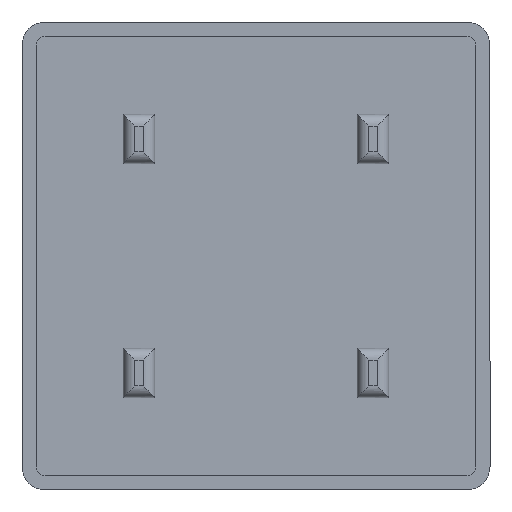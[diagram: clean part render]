
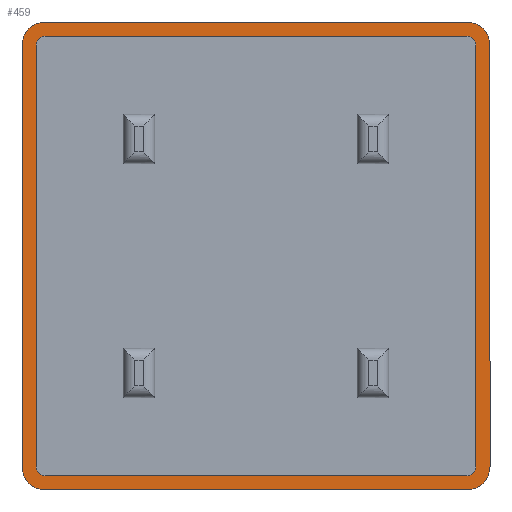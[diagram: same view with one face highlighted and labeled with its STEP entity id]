
A CAD part, front view. The second image highlights one B-rep face of the part: STEP entity #459.
In plain terms, the highlighted planar face has unit normal (0, -1, 0).
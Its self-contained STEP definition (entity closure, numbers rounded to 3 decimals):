
#26 = VECTOR ( 'NONE', #1459, 1000. ) ;
#47 = AXIS2_PLACEMENT_3D ( 'NONE', #1018, #171, #1162 ) ;
#72 = EDGE_CURVE ( 'NONE', #1550, #1064, #838, .T. ) ;
#80 = DIRECTION ( 'NONE',  ( 0., 0., 1. ) ) ;
#88 = CIRCLE ( 'NONE', #584, 2. ) ;
#98 = EDGE_CURVE ( 'NONE', #1606, #997, #88, .T. ) ;
#102 = EDGE_CURVE ( 'NONE', #602, #1389, #1211, .T. ) ;
#111 = CARTESIAN_POINT ( 'NONE',  ( 18., -1.5, -18. ) ) ;
#129 = AXIS2_PLACEMENT_3D ( 'NONE', #1746, #925, #80 ) ;
#157 = VERTEX_POINT ( 'NONE', #929 ) ;
#160 = CARTESIAN_POINT ( 'NONE',  ( -18., -1.5, -20. ) ) ;
#171 = DIRECTION ( 'NONE',  ( 0., -1., 0. ) ) ;
#189 = VERTEX_POINT ( 'NONE', #245 ) ;
#199 = CARTESIAN_POINT ( 'NONE',  ( -18.8, -1.5, -18. ) ) ;
#200 = CARTESIAN_POINT ( 'NONE',  ( 18., -1.5, 18.8 ) ) ;
#205 = DIRECTION ( 'NONE',  ( 0., -1., 0. ) ) ;
#206 = ORIENTED_EDGE ( 'NONE', *, *, #311, .F. ) ;
#207 = EDGE_LOOP ( 'NONE', ( #1673, #740, #1390, #1130, #1172, #1376, #682, #206 ) ) ;
#208 = VECTOR ( 'NONE', #339, 1000. ) ;
#220 = AXIS2_PLACEMENT_3D ( 'NONE', #474, #354, #1335 ) ;
#245 = CARTESIAN_POINT ( 'NONE',  ( 18.8, -1.5, -18. ) ) ;
#253 = DIRECTION ( 'NONE',  ( 0., 0., -1. ) ) ;
#265 = AXIS2_PLACEMENT_3D ( 'NONE', #313, #1296, #445 ) ;
#278 = ORIENTED_EDGE ( 'NONE', *, *, #72, .F. ) ;
#293 = ORIENTED_EDGE ( 'NONE', *, *, #846, .F. ) ;
#301 = DIRECTION ( 'NONE',  ( 0., 1., 0. ) ) ;
#311 = EDGE_CURVE ( 'NONE', #849, #1305, #343, .T. ) ;
#313 = CARTESIAN_POINT ( 'NONE',  ( -18., -1.5, -18. ) ) ;
#336 = VERTEX_POINT ( 'NONE', #1022 ) ;
#339 = DIRECTION ( 'NONE',  ( -1., 0., 0. ) ) ;
#340 = EDGE_CURVE ( 'NONE', #189, #1092, #1455, .T. ) ;
#343 = CIRCLE ( 'NONE', #265, 0.8 ) ;
#354 = DIRECTION ( 'NONE',  ( 0., 1., 0. ) ) ;
#366 = LINE ( 'NONE', #939, #440 ) ;
#368 = CARTESIAN_POINT ( 'NONE',  ( -18., -1.5, -18.8 ) ) ;
#428 = VECTOR ( 'NONE', #1758, 1000. ) ;
#440 = VECTOR ( 'NONE', #523, 1000. ) ;
#445 = DIRECTION ( 'NONE',  ( 0., 0., -1. ) ) ;
#450 = ORIENTED_EDGE ( 'NONE', *, *, #1242, .F. ) ;
#459 = ADVANCED_FACE ( 'NONE', ( #1158, #580 ), #1196, .F. ) ;
#464 = CARTESIAN_POINT ( 'NONE',  ( -18., -1.5, 20. ) ) ;
#467 = EDGE_CURVE ( 'NONE', #336, #1657, #787, .T. ) ;
#472 = CARTESIAN_POINT ( 'NONE',  ( -18., -1.5, 20. ) ) ;
#474 = CARTESIAN_POINT ( 'NONE',  ( -18., -1.5, -18. ) ) ;
#505 = DIRECTION ( 'NONE',  ( -1., 0., 0. ) ) ;
#523 = DIRECTION ( 'NONE',  ( 0., 0., -1. ) ) ;
#528 = DIRECTION ( 'NONE',  ( 0., 1., 0. ) ) ;
#579 = LINE ( 'NONE', #1448, #208 ) ;
#580 = FACE_OUTER_BOUND ( 'NONE', #1407, .T. ) ;
#584 = AXIS2_PLACEMENT_3D ( 'NONE', #619, #1599, #766 ) ;
#602 = VERTEX_POINT ( 'NONE', #1506 ) ;
#614 = ORIENTED_EDGE ( 'NONE', *, *, #98, .F. ) ;
#619 = CARTESIAN_POINT ( 'NONE',  ( 18., -1.5, -18. ) ) ;
#623 = LINE ( 'NONE', #1725, #1331 ) ;
#651 = CARTESIAN_POINT ( 'NONE',  ( -18., -1.5, -20. ) ) ;
#682 = ORIENTED_EDGE ( 'NONE', *, *, #1558, .F. ) ;
#685 = CARTESIAN_POINT ( 'NONE',  ( -20., -1.5, -18. ) ) ;
#692 = CARTESIAN_POINT ( 'NONE',  ( 18.8, -1.5, 18. ) ) ;
#706 = CIRCLE ( 'NONE', #1670, 2. ) ;
#711 = VERTEX_POINT ( 'NONE', #1552 ) ;
#740 = ORIENTED_EDGE ( 'NONE', *, *, #102, .F. ) ;
#766 = DIRECTION ( 'NONE',  ( 0., 0., 1. ) ) ;
#767 = VECTOR ( 'NONE', #505, 1000. ) ;
#780 = AXIS2_PLACEMENT_3D ( 'NONE', #1368, #528, #1515 ) ;
#787 = CIRCLE ( 'NONE', #129, 2. ) ;
#815 = AXIS2_PLACEMENT_3D ( 'NONE', #111, #1097, #253 ) ;
#838 = CIRCLE ( 'NONE', #780, 2. ) ;
#846 = EDGE_CURVE ( 'NONE', #711, #1606, #623, .T. ) ;
#849 = VERTEX_POINT ( 'NONE', #199 ) ;
#850 = EDGE_CURVE ( 'NONE', #1636, #602, #579, .T. ) ;
#863 = CARTESIAN_POINT ( 'NONE',  ( 18., -1.5, 20. ) ) ;
#880 = CARTESIAN_POINT ( 'NONE',  ( 18.8, -1.5, 18. ) ) ;
#882 = CARTESIAN_POINT ( 'NONE',  ( 20., -1.5, -18. ) ) ;
#896 = CIRCLE ( 'NONE', #47, 0.8 ) ;
#898 = LINE ( 'NONE', #1623, #428 ) ;
#901 = DIRECTION ( 'NONE',  ( 0., 0., -1. ) ) ;
#925 = DIRECTION ( 'NONE',  ( 0., 1., 0. ) ) ;
#929 = CARTESIAN_POINT ( 'NONE',  ( 18., -1.5, -18.8 ) ) ;
#939 = CARTESIAN_POINT ( 'NONE',  ( -18.8, -1.5, 18. ) ) ;
#983 = EDGE_CURVE ( 'NONE', #1389, #849, #366, .T. ) ;
#997 = VERTEX_POINT ( 'NONE', #1510 ) ;
#1001 = EDGE_CURVE ( 'NONE', #157, #189, #1077, .T. ) ;
#1003 = VECTOR ( 'NONE', #1167, 1000. ) ;
#1018 = CARTESIAN_POINT ( 'NONE',  ( 18., -1.5, 18. ) ) ;
#1022 = CARTESIAN_POINT ( 'NONE',  ( -20., -1.5, 18. ) ) ;
#1055 = CARTESIAN_POINT ( 'NONE',  ( -18., -1.5, 18. ) ) ;
#1064 = VERTEX_POINT ( 'NONE', #685 ) ;
#1077 = CIRCLE ( 'NONE', #815, 0.8 ) ;
#1092 = VERTEX_POINT ( 'NONE', #692 ) ;
#1097 = DIRECTION ( 'NONE',  ( 0., -1., 0. ) ) ;
#1130 = ORIENTED_EDGE ( 'NONE', *, *, #1590, .F. ) ;
#1144 = LINE ( 'NONE', #464, #26 ) ;
#1147 = CARTESIAN_POINT ( 'NONE',  ( 18., -1.5, 18. ) ) ;
#1158 = FACE_BOUND ( 'NONE', #207, .T. ) ;
#1162 = DIRECTION ( 'NONE',  ( 0., 0., -1. ) ) ;
#1167 = DIRECTION ( 'NONE',  ( 0., 0., 1. ) ) ;
#1172 = ORIENTED_EDGE ( 'NONE', *, *, #340, .F. ) ;
#1177 = VERTEX_POINT ( 'NONE', #863 ) ;
#1191 = DIRECTION ( 'NONE',  ( 0., 0., -1. ) ) ;
#1196 = PLANE ( 'NONE',  #220 ) ;
#1201 = ORIENTED_EDGE ( 'NONE', *, *, #1649, .F. ) ;
#1211 = CIRCLE ( 'NONE', #1254, 0.8 ) ;
#1234 = CARTESIAN_POINT ( 'NONE',  ( -18.8, -1.5, 18. ) ) ;
#1242 = EDGE_CURVE ( 'NONE', #1064, #336, #898, .T. ) ;
#1254 = AXIS2_PLACEMENT_3D ( 'NONE', #1055, #205, #1191 ) ;
#1256 = EDGE_CURVE ( 'NONE', #997, #1550, #1526, .T. ) ;
#1280 = DIRECTION ( 'NONE',  ( 0., 0., 1. ) ) ;
#1288 = CARTESIAN_POINT ( 'NONE',  ( -18., -1.5, -18.8 ) ) ;
#1296 = DIRECTION ( 'NONE',  ( 0., -1., 0. ) ) ;
#1305 = VERTEX_POINT ( 'NONE', #368 ) ;
#1313 = LINE ( 'NONE', #1288, #1646 ) ;
#1331 = VECTOR ( 'NONE', #901, 1000. ) ;
#1335 = DIRECTION ( 'NONE',  ( 0., 0., 1. ) ) ;
#1352 = ORIENTED_EDGE ( 'NONE', *, *, #467, .F. ) ;
#1368 = CARTESIAN_POINT ( 'NONE',  ( -18., -1.5, -18. ) ) ;
#1376 = ORIENTED_EDGE ( 'NONE', *, *, #1001, .F. ) ;
#1389 = VERTEX_POINT ( 'NONE', #1234 ) ;
#1390 = ORIENTED_EDGE ( 'NONE', *, *, #850, .F. ) ;
#1407 = EDGE_LOOP ( 'NONE', ( #278, #1631, #614, #293, #1703, #1201, #1352, #450 ) ) ;
#1448 = CARTESIAN_POINT ( 'NONE',  ( -18., -1.5, 18.8 ) ) ;
#1455 = LINE ( 'NONE', #880, #1003 ) ;
#1459 = DIRECTION ( 'NONE',  ( 1., 0., 0. ) ) ;
#1506 = CARTESIAN_POINT ( 'NONE',  ( -18., -1.5, 18.8 ) ) ;
#1509 = EDGE_CURVE ( 'NONE', #1177, #711, #706, .T. ) ;
#1510 = CARTESIAN_POINT ( 'NONE',  ( 18., -1.5, -20. ) ) ;
#1515 = DIRECTION ( 'NONE',  ( 0., 0., 1. ) ) ;
#1526 = LINE ( 'NONE', #651, #767 ) ;
#1550 = VERTEX_POINT ( 'NONE', #160 ) ;
#1552 = CARTESIAN_POINT ( 'NONE',  ( 20., -1.5, 18. ) ) ;
#1558 = EDGE_CURVE ( 'NONE', #1305, #157, #1313, .T. ) ;
#1590 = EDGE_CURVE ( 'NONE', #1092, #1636, #896, .T. ) ;
#1599 = DIRECTION ( 'NONE',  ( 0., 1., 0. ) ) ;
#1606 = VERTEX_POINT ( 'NONE', #882 ) ;
#1623 = CARTESIAN_POINT ( 'NONE',  ( -20., -1.5, 18. ) ) ;
#1631 = ORIENTED_EDGE ( 'NONE', *, *, #1256, .F. ) ;
#1636 = VERTEX_POINT ( 'NONE', #200 ) ;
#1646 = VECTOR ( 'NONE', #1699, 1000. ) ;
#1649 = EDGE_CURVE ( 'NONE', #1657, #1177, #1144, .T. ) ;
#1657 = VERTEX_POINT ( 'NONE', #472 ) ;
#1670 = AXIS2_PLACEMENT_3D ( 'NONE', #1147, #301, #1280 ) ;
#1673 = ORIENTED_EDGE ( 'NONE', *, *, #983, .F. ) ;
#1699 = DIRECTION ( 'NONE',  ( 1., 0., 0. ) ) ;
#1703 = ORIENTED_EDGE ( 'NONE', *, *, #1509, .F. ) ;
#1725 = CARTESIAN_POINT ( 'NONE',  ( 20., -1.5, 18. ) ) ;
#1746 = CARTESIAN_POINT ( 'NONE',  ( -18., -1.5, 18. ) ) ;
#1758 = DIRECTION ( 'NONE',  ( 0., 0., 1. ) ) ;
